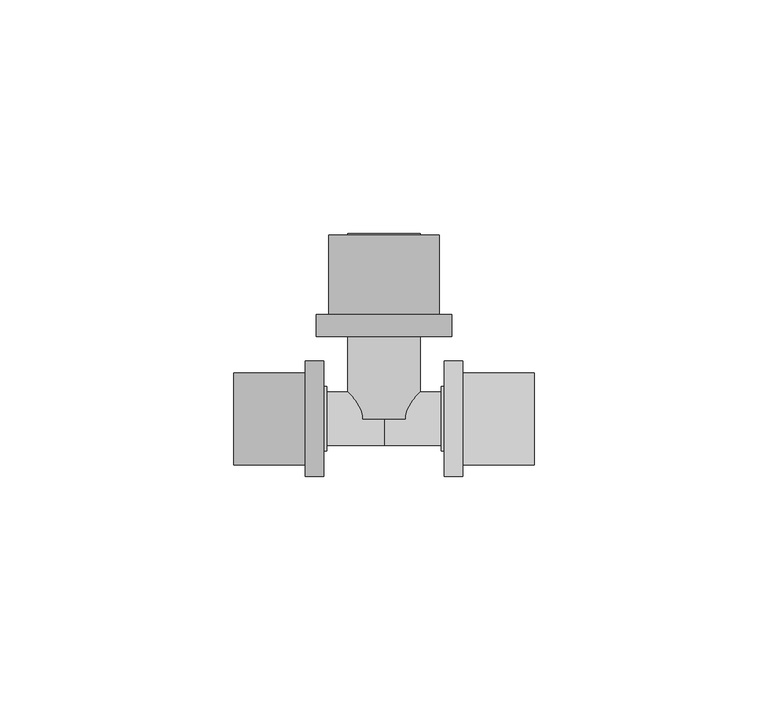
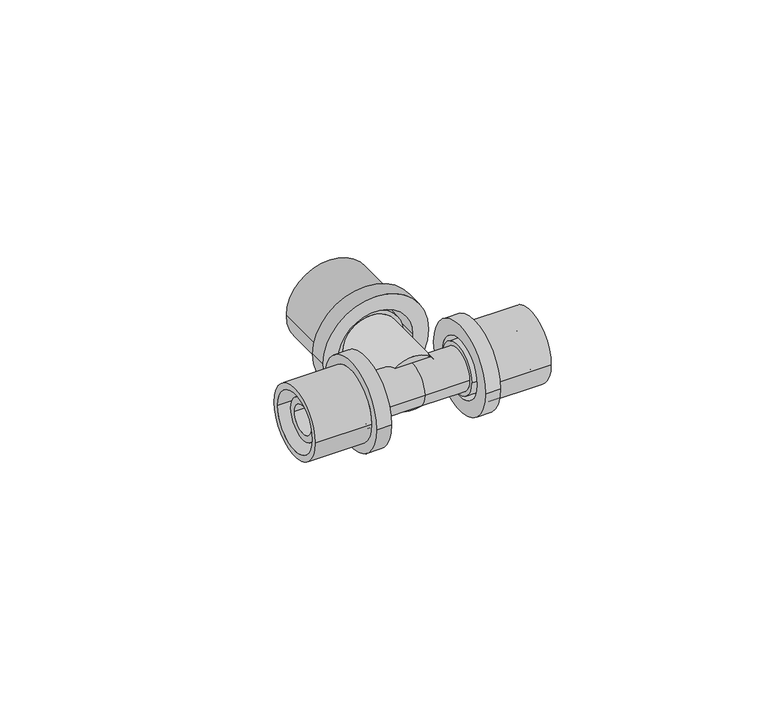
"""IFC4 building model written with IfcOpenShell, lengths in millimetres: pipe fitting geometry, FASTLOC_T-piece_EX+ : FSL T-Piece EX+ AT."""

from ifc_helpers import new_model, si_unit, frame, origin, place, context, project, spatial, polyline, circle_curve, source, transform, mapped, element, save
from ifc_brep_helpers import plane_surface, cylinder_surface, revolved_surface, advanced_brep


def pipe_fitting_78029988(model_context):
    return source(origin(), model_context, "Body", "AdvancedBrep", [
        advanced_brep(
        [(16.9, 12.35, 0.0), (16.9, -12.35, 0.0), (12.9, -12.35, 0.0), (12.9, 12.35, 0.0), (32.2, 9.85, 0.0), (32.2, -9.85, 0.0), (16.9, -9.85, 0.0), (16.9, 9.85, 0.0), (12.9, 8.15, 0.0), (12.9, -8.15, 0.0), (32.2, -8.15, 0.0), (32.2, 8.15, 0.0)],
        [
            (0, 1, circle_curve(frame((16.9, 0.0, 0.0), z_axis=(-1.0, 0.0, 0.0), x_axis=(0.0, -1.0, 0.0)), 12.35)),
            (1, 2),
            (2, 3, circle_curve(frame((12.9, 0.0, 0.0), z_axis=(1.0, 0.0, 0.0), x_axis=(0.0, -1.0, 0.0)), 12.35)),
            (3, 0),
            (4, 5, circle_curve(frame((32.2, 0.0, 0.0), z_axis=(-1.0, 0.0, 0.0), x_axis=(0.0, -1.0, 0.0)), 9.85)),
            (5, 6),
            (6, 7, circle_curve(frame((16.9, 0.0, 0.0), z_axis=(1.0, 0.0, 0.0), x_axis=(0.0, -1.0, 0.0)), 9.85)),
            (7, 4),
            (8, 9, circle_curve(frame((12.9, 0.0, 0.0), z_axis=(-1.0, 0.0, 0.0), x_axis=(0.0, -1.0, 0.0)), 8.15)),
            (9, 10),
            (10, 11, circle_curve(frame((32.2, 0.0, 0.0), z_axis=(1.0, 0.0, 0.0), x_axis=(0.0, -1.0, 0.0)), 8.15)),
            (11, 8),
            (1, 0, circle_curve(frame((16.9, 0.0, 0.0), z_axis=(-1.0, 0.0, 0.0), x_axis=(0.0, 1.0, 0.0)), 12.35)),
            (3, 2, circle_curve(frame((12.9, 0.0, 0.0), z_axis=(1.0, 0.0, 0.0), x_axis=(0.0, 1.0, 0.0)), 12.35)),
            (6, 7, circle_curve(frame((16.9, 0.0, 0.0), z_axis=(-1.0, 0.0, 0.0), x_axis=(0.0, 1.0, 0.0)), 9.85)),
            (5, 4, circle_curve(frame((32.2, 0.0, 0.0), z_axis=(-1.0, 0.0, 0.0), x_axis=(0.0, 1.0, 0.0)), 9.85)),
            (10, 11, circle_curve(frame((32.2, 0.0, 0.0), z_axis=(-1.0, 0.0, 0.0), x_axis=(0.0, 1.0, 0.0)), 8.15)),
            (9, 8, circle_curve(frame((12.9, 0.0, 0.0), z_axis=(-1.0, 0.0, 0.0), x_axis=(0.0, 1.0, 0.0)), 8.15)),
        ],
        [
            cylinder_surface(frame((12.9, 0.0, 0.0), z_axis=(1.0, 0.0, 0.0), x_axis=(0.0, -1.0, 0.0)), 12.35),
            cylinder_surface(frame((12.9, 0.0, 0.0), z_axis=(1.0, 0.0, 0.0), x_axis=(0.0, -1.0, 0.0)), 9.85),
            revolved_surface(polyline([(32.2, -8.15, 0.0), (12.9, -8.15, 0.0)]), (12.9, 0.0, 0.0), (1.0, 0.0, 0.0)),
            cylinder_surface(frame((12.9, 0.0, 0.0), z_axis=(1.0, 0.0, 0.0), x_axis=(0.0, 1.0, 0.0)), 12.35),
            plane_surface(frame((16.9, 0.0, 0.0), z_axis=(1.0, 0.0, 0.0), x_axis=(0.0, 1.0, 0.0))),
            cylinder_surface(frame((12.9, 0.0, 0.0), z_axis=(1.0, 0.0, 0.0), x_axis=(0.0, 1.0, 0.0)), 9.85),
            plane_surface(frame((32.2, 0.0, 0.0), z_axis=(1.0, 0.0, 0.0), x_axis=(0.0, 1.0, 0.0))),
            revolved_surface(polyline([(32.2, 8.15, 0.0), (12.9, 8.15, 0.0)]), (12.9, 0.0, 0.0), (1.0, 0.0, 0.0)),
            plane_surface(frame((12.9, 0.0, 0.0), z_axis=(-1.0, 0.0, 0.0), x_axis=(0.0, 1.0, 0.0))),
        ],
        [
            (0, [[1, 2, 3, 4]]),
            (1, [[5, 6, 7, 8]]),
            (2, [[9, 10, 11, 12]]),
            (3, [[13, -4, 14, -2]]),
            (4, [[-13, -1], [15, -7]]),
            (5, [[16, -8, -15, -6]]),
            (6, [[-16, -5], [17, -11]]),
            (7, [[18, -12, -17, -10]]),
            (8, [[-14, -3], [-18, -9]]),
        ],
    ),
        advanced_brep(
        [(-16.9, -12.35, 0.0), (-16.9, 12.35, 0.0), (-12.9, 12.35, 0.0), (-12.9, -12.35, 0.0), (-32.2, -9.85, 0.0), (-32.2, 9.85, 0.0), (-16.9, 9.85, 0.0), (-16.9, -9.85, 0.0), (-12.9, -8.15, 0.0), (-12.9, 8.15, 0.0), (-32.2, 8.15, 0.0), (-32.2, -8.15, 0.0)],
        [
            (0, 1, circle_curve(frame((-16.9, 0.0, 0.0), z_axis=(1.0, 0.0, 0.0), x_axis=(0.0, 1.0, 0.0)), 12.35)),
            (1, 2),
            (2, 3, circle_curve(frame((-12.9, 0.0, 0.0), z_axis=(-1.0, 0.0, 0.0), x_axis=(0.0, 1.0, 0.0)), 12.35)),
            (3, 0),
            (4, 5, circle_curve(frame((-32.2, 0.0, 0.0), z_axis=(1.0, 0.0, 0.0), x_axis=(0.0, 1.0, 0.0)), 9.85)),
            (5, 6),
            (6, 7, circle_curve(frame((-16.9, 0.0, 0.0), z_axis=(-1.0, 0.0, 0.0), x_axis=(0.0, 1.0, 0.0)), 9.85)),
            (7, 4),
            (8, 9, circle_curve(frame((-12.9, 0.0, 0.0), z_axis=(1.0, 0.0, 0.0), x_axis=(0.0, 1.0, 0.0)), 8.15)),
            (9, 10),
            (10, 11, circle_curve(frame((-32.2, 0.0, 0.0), z_axis=(-1.0, 0.0, 0.0), x_axis=(0.0, 1.0, 0.0)), 8.15)),
            (11, 8),
            (1, 0, circle_curve(frame((-16.9, 0.0, 0.0), z_axis=(1.0, 0.0, 0.0), x_axis=(0.0, -1.0, 0.0)), 12.35)),
            (3, 2, circle_curve(frame((-12.9, 0.0, 0.0), z_axis=(-1.0, 0.0, 0.0), x_axis=(0.0, -1.0, 0.0)), 12.35)),
            (6, 7, circle_curve(frame((-16.9, 0.0, 0.0), z_axis=(1.0, 0.0, 0.0), x_axis=(0.0, -1.0, 0.0)), 9.85)),
            (5, 4, circle_curve(frame((-32.2, 0.0, 0.0), z_axis=(1.0, 0.0, 0.0), x_axis=(0.0, -1.0, 0.0)), 9.85)),
            (10, 11, circle_curve(frame((-32.2, 0.0, 0.0), z_axis=(1.0, 0.0, 0.0), x_axis=(0.0, -1.0, 0.0)), 8.15)),
            (9, 8, circle_curve(frame((-12.9, 0.0, 0.0), z_axis=(1.0, 0.0, 0.0), x_axis=(0.0, -1.0, 0.0)), 8.15)),
        ],
        [
            cylinder_surface(frame((-12.9, 0.0, 0.0), z_axis=(-1.0, 0.0, 0.0), x_axis=(0.0, 1.0, 0.0)), 12.35),
            cylinder_surface(frame((-12.9, 0.0, 0.0), z_axis=(-1.0, 0.0, 0.0), x_axis=(0.0, 1.0, 0.0)), 9.85),
            revolved_surface(polyline([(-32.2, 8.15, 0.0), (-12.9, 8.15, 0.0)]), (-12.9, 0.0, 0.0), (-1.0, 0.0, 0.0)),
            cylinder_surface(frame((-12.9, 0.0, 0.0), z_axis=(-1.0, 0.0, 0.0), x_axis=(0.0, -1.0, 0.0)), 12.35),
            plane_surface(frame((-16.9, 0.0, 0.0), z_axis=(-1.0, 0.0, 0.0), x_axis=(0.0, -1.0, 0.0))),
            cylinder_surface(frame((-12.9, 0.0, 0.0), z_axis=(-1.0, 0.0, 0.0), x_axis=(0.0, -1.0, 0.0)), 9.85),
            plane_surface(frame((-32.2, 0.0, 0.0), z_axis=(-1.0, 0.0, 0.0), x_axis=(0.0, -1.0, 0.0))),
            revolved_surface(polyline([(-32.2, -8.15, 0.0), (-12.9, -8.15, 0.0)]), (-12.9, 0.0, 0.0), (-1.0, 0.0, 0.0)),
            plane_surface(frame((-12.9, 0.0, 0.0), z_axis=(1.0, 0.0, 0.0), x_axis=(0.0, -1.0, 0.0))),
        ],
        [
            (0, [[1, 2, 3, 4]]),
            (1, [[5, 6, 7, 8]]),
            (2, [[9, 10, 11, 12]]),
            (3, [[13, -4, 14, -2]]),
            (4, [[-13, -1], [15, -7]]),
            (5, [[16, -8, -15, -6]]),
            (6, [[-16, -5], [17, -11]]),
            (7, [[18, -12, -17, -10]]),
            (8, [[-14, -3], [-18, -9]]),
        ],
    ),
        advanced_brep(
        [(-14.5, 22.3, 0.0), (14.5, 22.3, 0.0), (14.5, 17.6, 0.0), (-14.5, 17.6, 0.0), (-11.85, 39.3, 0.0), (11.85, 39.3, 0.0), (11.85, 22.3, 0.0), (-11.85, 22.3, 0.0), (-10.15, 17.6, 0.0), (10.15, 17.6, 0.0), (10.15, 39.3, 0.0), (-10.15, 39.3, 0.0)],
        [
            (0, 1, circle_curve(frame((0.0, 22.3, 0.0), z_axis=(0.0, -1.0, 0.0), x_axis=(1.0, 0.0, 0.0)), 14.5)),
            (1, 2),
            (2, 3, circle_curve(frame((0.0, 17.6, 0.0), z_axis=(0.0, 1.0, 0.0), x_axis=(1.0, 0.0, 0.0)), 14.5)),
            (3, 0),
            (4, 5, circle_curve(frame((0.0, 39.3, 0.0), z_axis=(0.0, -1.0, 0.0), x_axis=(1.0, 0.0, 0.0)), 11.85)),
            (5, 6),
            (6, 7, circle_curve(frame((0.0, 22.3, 0.0), z_axis=(0.0, 1.0, 0.0), x_axis=(1.0, 0.0, 0.0)), 11.85)),
            (7, 4),
            (8, 9, circle_curve(frame((0.0, 17.6, 0.0), z_axis=(0.0, -1.0, 0.0), x_axis=(1.0, 0.0, 0.0)), 10.15)),
            (9, 10),
            (10, 11, circle_curve(frame((0.0, 39.3, 0.0), z_axis=(0.0, 1.0, 0.0), x_axis=(1.0, 0.0, 0.0)), 10.15)),
            (11, 8),
            (1, 0, circle_curve(frame((0.0, 22.3, 0.0), z_axis=(0.0, -1.0, 0.0), x_axis=(-1.0, 0.0, 0.0)), 14.5)),
            (3, 2, circle_curve(frame((0.0, 17.6, 0.0), z_axis=(0.0, 1.0, 0.0), x_axis=(-1.0, 0.0, 0.0)), 14.5)),
            (6, 7, circle_curve(frame((0.0, 22.3, 0.0), z_axis=(0.0, -1.0, 0.0), x_axis=(-1.0, 0.0, 0.0)), 11.85)),
            (5, 4, circle_curve(frame((0.0, 39.3, 0.0), z_axis=(0.0, -1.0, 0.0), x_axis=(-1.0, 0.0, 0.0)), 11.85)),
            (10, 11, circle_curve(frame((0.0, 39.3, 0.0), z_axis=(0.0, -1.0, 0.0), x_axis=(-1.0, 0.0, 0.0)), 10.15)),
            (9, 8, circle_curve(frame((0.0, 17.6, 0.0), z_axis=(0.0, -1.0, 0.0), x_axis=(-1.0, 0.0, 0.0)), 10.15)),
        ],
        [
            cylinder_surface(frame((0.0, 17.6, 0.0), z_axis=(0.0, 1.0, 0.0), x_axis=(1.0, 0.0, 0.0)), 14.5),
            cylinder_surface(frame((0.0, 17.6, 0.0), z_axis=(0.0, 1.0, 0.0), x_axis=(1.0, 0.0, 0.0)), 11.85),
            revolved_surface(polyline([(10.15, 39.3, 0.0), (10.15, 17.6, 0.0)]), (0.0, 17.6, 0.0), (0.0, 1.0, 0.0)),
            cylinder_surface(frame((0.0, 17.6, 0.0), z_axis=(0.0, 1.0, 0.0), x_axis=(-1.0, 0.0, 0.0)), 14.5),
            plane_surface(frame((0.0, 22.3, 0.0), z_axis=(0.0, 1.0, 0.0), x_axis=(-1.0, 0.0, 0.0))),
            cylinder_surface(frame((0.0, 17.6, 0.0), z_axis=(0.0, 1.0, 0.0), x_axis=(-1.0, 0.0, 0.0)), 11.85),
            plane_surface(frame((0.0, 39.3, 0.0), z_axis=(0.0, 1.0, 0.0), x_axis=(-1.0, 0.0, 0.0))),
            revolved_surface(polyline([(-10.15, 39.3, 0.0), (-10.15, 17.6, 0.0)]), (0.0, 17.6, 0.0), (0.0, 1.0, 0.0)),
            plane_surface(frame((0.0, 17.6, 0.0), z_axis=(0.0, -1.0, 0.0), x_axis=(-1.0, 0.0, 0.0))),
        ],
        [
            (0, [[1, 2, 3, 4]]),
            (1, [[5, 6, 7, 8]]),
            (2, [[9, 10, 11, 12]]),
            (3, [[13, -4, 14, -2]]),
            (4, [[-13, -1], [15, -7]]),
            (5, [[16, -8, -15, -6]]),
            (6, [[-16, -5], [17, -11]]),
            (7, [[18, -12, -17, -10]]),
            (8, [[-14, -3], [-18, -9]]),
        ],
    ),
        advanced_brep(
        [(0.0, 5.75, 0.0), (0.0, -5.75, 0.0), (-12.24, -5.75, 0.0), (-12.24, 5.75, 0.0), (12.24, 5.75, 0.0), (12.24, -5.75, 0.0), (15.0, 6.89, 0.0), (15.0, -6.89, 0.0), (12.24, -6.89, 0.0), (12.24, 6.89, 0.0), (30.0, 5.75, 0.0), (30.0, -5.75, 0.0), (15.0, -5.75, 0.0), (15.0, 5.75, 0.0), (-30.0, 3.95, 0.0), (-30.0, -3.95, 0.0), (30.0, -3.95, 0.0), (30.0, 3.95, 0.0), (-15.0, 5.75, 0.0), (-15.0, -5.75, 0.0), (-30.0, -5.75, 0.0), (-30.0, 5.75, 0.0), (-12.24, 6.89, 0.0), (-12.24, -6.89, 0.0), (-15.0, -6.89, 0.0), (-15.0, 6.89, 0.0)],
        [
            (0, 1, circle_curve(frame((0.0, 0.0, 0.0), z_axis=(-1.0, 0.0, 0.0), x_axis=(0.0, -1.0, 0.0)), 5.75)),
            (1, 2),
            (2, 3, circle_curve(frame((-12.24, 0.0, 0.0), z_axis=(1.0, 0.0, 0.0), x_axis=(0.0, -1.0, 0.0)), 5.75)),
            (3, 0),
            (4, 5, circle_curve(frame((12.24, 0.0, 0.0), z_axis=(-1.0, 0.0, 0.0), x_axis=(0.0, -1.0, 0.0)), 5.75)),
            (5, 1),
            (0, 4),
            (6, 7, circle_curve(frame((15.0, 0.0, 0.0), z_axis=(-1.0, 0.0, 0.0), x_axis=(0.0, -1.0, 0.0)), 6.89)),
            (7, 8),
            (8, 9, circle_curve(frame((12.24, 0.0, 0.0), z_axis=(1.0, 0.0, 0.0), x_axis=(0.0, -1.0, 0.0)), 6.89)),
            (9, 6),
            (10, 11, circle_curve(frame((30.0, 0.0, 0.0), z_axis=(-1.0, 0.0, 0.0), x_axis=(0.0, -1.0, 0.0)), 5.75)),
            (11, 12),
            (12, 13, circle_curve(frame((15.0, 0.0, 0.0), z_axis=(1.0, 0.0, 0.0), x_axis=(0.0, -1.0, 0.0)), 5.75)),
            (13, 10),
            (14, 15, circle_curve(frame((-30.0, 0.0, 0.0), z_axis=(-1.0, 0.0, 0.0), x_axis=(0.0, -1.0, 0.0)), 3.95)),
            (15, 16),
            (16, 17, circle_curve(frame((30.0, 0.0, 0.0), z_axis=(1.0, 0.0, 0.0), x_axis=(0.0, -1.0, 0.0)), 3.95)),
            (17, 14),
            (18, 19, circle_curve(frame((-15.0, 0.0, 0.0), z_axis=(-1.0, 0.0, 0.0), x_axis=(0.0, -1.0, 0.0)), 5.75)),
            (19, 20),
            (20, 21, circle_curve(frame((-30.0, 0.0, 0.0), z_axis=(1.0, 0.0, 0.0), x_axis=(0.0, -1.0, 0.0)), 5.75)),
            (21, 18),
            (22, 23, circle_curve(frame((-12.24, 0.0, 0.0), z_axis=(-1.0, 0.0, 0.0), x_axis=(0.0, -1.0, 0.0)), 6.89)),
            (23, 24),
            (24, 25, circle_curve(frame((-15.0, 0.0, 0.0), z_axis=(1.0, 0.0, 0.0), x_axis=(0.0, -1.0, 0.0)), 6.89)),
            (25, 22),
            (22, 23, circle_curve(frame((-12.24, 0.0, 0.0), z_axis=(1.0, 0.0, 0.0), x_axis=(0.0, 1.0, 0.0)), 6.89)),
            (2, 3, circle_curve(frame((-12.24, 0.0, 0.0), z_axis=(-1.0, 0.0, 0.0), x_axis=(0.0, 1.0, 0.0)), 5.75)),
            (1, 0, circle_curve(frame((0.0, 0.0, 0.0), z_axis=(-1.0, 0.0, 0.0), x_axis=(0.0, 1.0, 0.0)), 5.75)),
            (5, 4, circle_curve(frame((12.24, 0.0, 0.0), z_axis=(-1.0, 0.0, 0.0), x_axis=(0.0, 1.0, 0.0)), 5.75)),
            (8, 9, circle_curve(frame((12.24, 0.0, 0.0), z_axis=(-1.0, 0.0, 0.0), x_axis=(0.0, 1.0, 0.0)), 6.89)),
            (7, 6, circle_curve(frame((15.0, 0.0, 0.0), z_axis=(-1.0, 0.0, 0.0), x_axis=(0.0, 1.0, 0.0)), 6.89)),
            (12, 13, circle_curve(frame((15.0, 0.0, 0.0), z_axis=(-1.0, 0.0, 0.0), x_axis=(0.0, 1.0, 0.0)), 5.75)),
            (11, 10, circle_curve(frame((30.0, 0.0, 0.0), z_axis=(-1.0, 0.0, 0.0), x_axis=(0.0, 1.0, 0.0)), 5.75)),
            (16, 17, circle_curve(frame((30.0, 0.0, 0.0), z_axis=(-1.0, 0.0, 0.0), x_axis=(0.0, 1.0, 0.0)), 3.95)),
            (15, 14, circle_curve(frame((-30.0, 0.0, 0.0), z_axis=(-1.0, 0.0, 0.0), x_axis=(0.0, 1.0, 0.0)), 3.95)),
            (20, 21, circle_curve(frame((-30.0, 0.0, 0.0), z_axis=(-1.0, 0.0, 0.0), x_axis=(0.0, 1.0, 0.0)), 5.75)),
            (19, 18, circle_curve(frame((-15.0, 0.0, 0.0), z_axis=(-1.0, 0.0, 0.0), x_axis=(0.0, 1.0, 0.0)), 5.75)),
            (24, 25, circle_curve(frame((-15.0, 0.0, 0.0), z_axis=(-1.0, 0.0, 0.0), x_axis=(0.0, 1.0, 0.0)), 6.89)),
        ],
        [
            cylinder_surface(frame((0.0, 0.0, 0.0), z_axis=(1.0, 0.0, 0.0), x_axis=(0.0, -1.0, 0.0)), 5.75),
            cylinder_surface(frame((0.0, 0.0, 0.0), z_axis=(1.0, 0.0, 0.0), x_axis=(0.0, -1.0, 0.0)), 6.89),
            revolved_surface(polyline([(30.0, -3.95, 0.0), (-30.0, -3.95, 0.0)]), (0.0, 0.0, 0.0), (1.0, 0.0, 0.0)),
            plane_surface(frame((-12.24, 0.0, 0.0), z_axis=(1.0, 0.0, 0.0), x_axis=(0.0, 1.0, 0.0))),
            cylinder_surface(frame((0.0, 0.0, 0.0), z_axis=(1.0, 0.0, 0.0), x_axis=(0.0, 1.0, 0.0)), 5.75),
            plane_surface(frame((12.24, 0.0, 0.0), z_axis=(-1.0, 0.0, 0.0), x_axis=(0.0, 1.0, 0.0))),
            cylinder_surface(frame((0.0, 0.0, 0.0), z_axis=(1.0, 0.0, 0.0), x_axis=(0.0, 1.0, 0.0)), 6.89),
            plane_surface(frame((15.0, 0.0, 0.0), z_axis=(1.0, 0.0, 0.0), x_axis=(0.0, 1.0, 0.0))),
            plane_surface(frame((30.0, 0.0, 0.0), z_axis=(1.0, 0.0, 0.0), x_axis=(0.0, 1.0, 0.0))),
            revolved_surface(polyline([(30.0, 3.95, 0.0), (-30.0, 3.95, 0.0)]), (0.0, 0.0, 0.0), (1.0, 0.0, 0.0)),
            plane_surface(frame((-30.0, 0.0, 0.0), z_axis=(-1.0, 0.0, 0.0), x_axis=(0.0, 1.0, 0.0))),
            plane_surface(frame((-15.0, 0.0, 0.0), z_axis=(-1.0, 0.0, 0.0), x_axis=(0.0, 1.0, 0.0))),
        ],
        [
            (0, [[1, 2, 3, 4]]),
            (0, [[5, 6, -1, 7]]),
            (1, [[8, 9, 10, 11]]),
            (0, [[12, 13, 14, 15]]),
            (2, [[16, 17, 18, 19]]),
            (0, [[20, 21, 22, 23]]),
            (1, [[24, 25, 26, 27]]),
            (3, [[28, -24], [29, -3]]),
            (4, [[30, -4, -29, -2]]),
            (4, [[31, -7, -30, -6]]),
            (5, [[32, -10], [-31, -5]]),
            (6, [[33, -11, -32, -9]]),
            (7, [[-33, -8], [34, -14]]),
            (4, [[35, -15, -34, -13]]),
            (8, [[-35, -12], [36, -18]]),
            (9, [[37, -19, -36, -17]]),
            (10, [[38, -22], [-37, -16]]),
            (4, [[39, -23, -38, -21]]),
            (11, [[40, -26], [-39, -20]]),
            (6, [[-28, -27, -40, -25]]),
        ],
    ),
        advanced_brep(
        [(5.75, 39.7, 0.0), (-5.75, 39.7, 0.0), (-5.75, 0.0, 0.0), (5.75, 0.0, 0.0), (7.75, 0.0, 0.0), (-7.75, 0.0, 0.0), (-7.75, 19.63, 0.0), (7.75, 19.63, 0.0), (8.8, 19.63, 0.0), (-8.8, 19.63, 0.0), (-8.8, 22.3, 0.0), (8.8, 22.3, 0.0), (7.75, 22.3, 0.0), (-7.75, 22.3, 0.0), (-7.75, 39.7, 0.0), (7.75, 39.7, 0.0)],
        [
            (0, 1, circle_curve(frame((0.0, 39.7, 0.0), z_axis=(0.0, 1.0, 0.0), x_axis=(-1.0, 0.0, 0.0)), 5.75)),
            (1, 2),
            (2, 3, circle_curve(frame((0.0, 0.0, 0.0), z_axis=(0.0, -1.0, 0.0), x_axis=(-1.0, 0.0, 0.0)), 5.75)),
            (3, 0),
            (4, 5, circle_curve(frame((0.0, 0.0, 0.0), z_axis=(0.0, 1.0, 0.0), x_axis=(-1.0, 0.0, 0.0)), 7.75)),
            (5, 6),
            (6, 7, circle_curve(frame((0.0, 19.63, 0.0), z_axis=(0.0, -1.0, 0.0), x_axis=(-1.0, 0.0, 0.0)), 7.75)),
            (7, 4),
            (8, 9, circle_curve(frame((0.0, 19.63, 0.0), z_axis=(0.0, 1.0, 0.0), x_axis=(-1.0, 0.0, 0.0)), 8.8)),
            (9, 10),
            (10, 11, circle_curve(frame((0.0, 22.3, 0.0), z_axis=(0.0, -1.0, 0.0), x_axis=(-1.0, 0.0, 0.0)), 8.8)),
            (11, 8),
            (12, 13, circle_curve(frame((0.0, 22.3, 0.0), z_axis=(0.0, 1.0, 0.0), x_axis=(-1.0, 0.0, 0.0)), 7.75)),
            (13, 14),
            (14, 15, circle_curve(frame((0.0, 39.7, 0.0), z_axis=(0.0, -1.0, 0.0), x_axis=(-1.0, 0.0, 0.0)), 7.75)),
            (15, 12),
            (1, 0, circle_curve(frame((0.0, 39.7, 0.0), z_axis=(0.0, 1.0, 0.0), x_axis=(1.0, 0.0, 0.0)), 5.75)),
            (3, 2, circle_curve(frame((0.0, 0.0, 0.0), z_axis=(0.0, -1.0, 0.0), x_axis=(1.0, 0.0, 0.0)), 5.75)),
            (4, 5, circle_curve(frame((0.0, 0.0, 0.0), z_axis=(0.0, -1.0, 0.0), x_axis=(1.0, 0.0, 0.0)), 7.75)),
            (7, 6, circle_curve(frame((0.0, 19.63, 0.0), z_axis=(0.0, -1.0, 0.0), x_axis=(1.0, 0.0, 0.0)), 7.75)),
            (8, 9, circle_curve(frame((0.0, 19.63, 0.0), z_axis=(0.0, -1.0, 0.0), x_axis=(1.0, 0.0, 0.0)), 8.8)),
            (11, 10, circle_curve(frame((0.0, 22.3, 0.0), z_axis=(0.0, -1.0, 0.0), x_axis=(1.0, 0.0, 0.0)), 8.8)),
            (12, 13, circle_curve(frame((0.0, 22.3, 0.0), z_axis=(0.0, -1.0, 0.0), x_axis=(1.0, 0.0, 0.0)), 7.75)),
            (15, 14, circle_curve(frame((0.0, 39.7, 0.0), z_axis=(0.0, -1.0, 0.0), x_axis=(1.0, 0.0, 0.0)), 7.75)),
        ],
        [
            revolved_surface(polyline([(-5.75, 0.0, 0.0), (-5.75, 39.7, 0.0)]), (0.0, 0.0, 0.0), (0.0, -1.0, 0.0)),
            cylinder_surface(frame((0.0, 0.0, 0.0), z_axis=(0.0, -1.0, 0.0), x_axis=(-1.0, 0.0, 0.0)), 7.75),
            cylinder_surface(frame((0.0, 0.0, 0.0), z_axis=(0.0, -1.0, 0.0), x_axis=(-1.0, 0.0, 0.0)), 8.8),
            revolved_surface(polyline([(5.75, 0.0, 0.0), (5.75, 39.7, 0.0)]), (0.0, 0.0, 0.0), (0.0, -1.0, 0.0)),
            plane_surface(frame((0.0, 0.0, 0.0), z_axis=(0.0, -1.0, 0.0), x_axis=(1.0, 0.0, 0.0))),
            cylinder_surface(frame((0.0, 0.0, 0.0), z_axis=(0.0, -1.0, 0.0), x_axis=(1.0, 0.0, 0.0)), 7.75),
            plane_surface(frame((0.0, 19.63, 0.0), z_axis=(0.0, -1.0, 0.0), x_axis=(1.0, 0.0, 0.0))),
            cylinder_surface(frame((0.0, 0.0, 0.0), z_axis=(0.0, -1.0, 0.0), x_axis=(1.0, 0.0, 0.0)), 8.8),
            plane_surface(frame((0.0, 22.3, 0.0), z_axis=(0.0, 1.0, 0.0), x_axis=(1.0, 0.0, 0.0))),
            plane_surface(frame((0.0, 39.7, 0.0), z_axis=(0.0, 1.0, 0.0), x_axis=(1.0, 0.0, 0.0))),
        ],
        [
            (0, [[1, 2, 3, 4]]),
            (1, [[5, 6, 7, 8]]),
            (2, [[9, 10, 11, 12]]),
            (1, [[13, 14, 15, 16]]),
            (3, [[17, -4, 18, -2]]),
            (4, [[19, -5], [-18, -3]]),
            (5, [[-19, -8, 20, -6]]),
            (6, [[21, -9], [-20, -7]]),
            (7, [[-21, -12, 22, -10]]),
            (8, [[-22, -11], [23, -13]]),
            (5, [[-23, -16, 24, -14]]),
            (9, [[-24, -15], [-17, -1]]),
        ],
    ),
    ])


if __name__ == "__main__":
    model = new_model("IFC4")
    model_context = context("Model", 3, world=origin())
    ifc_project = project(units=[si_unit("LENGTHUNIT", "METRE", prefix="MILLI")], contexts=[model_context])
    site = spatial("IfcSite", under=ifc_project)
    building = spatial("IfcBuilding", under=site)
    placement = place(None, origin())
    pipe_fitting_shape = pipe_fitting_78029988(model_context)
    element("IfcPipeFitting", 1, ObjectType="FASTLOC_T-piece_EX+ : FSL T-Piece EX+ AT", at=placement, inside=building, context=model_context, shape_type="MappedRepresentation", body=[
        mapped(pipe_fitting_shape, transform((0.0, 0.0, 0.0), x_axis=(1.0, 0.0, 0.0), y_axis=(0.0, 1.0, 0.0), z_axis=(0.0, 0.0, 1.0))),
    ])
    save(model, "model.ifc")
